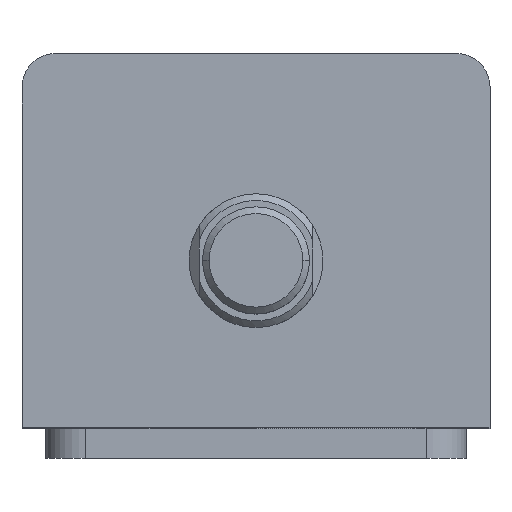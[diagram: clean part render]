
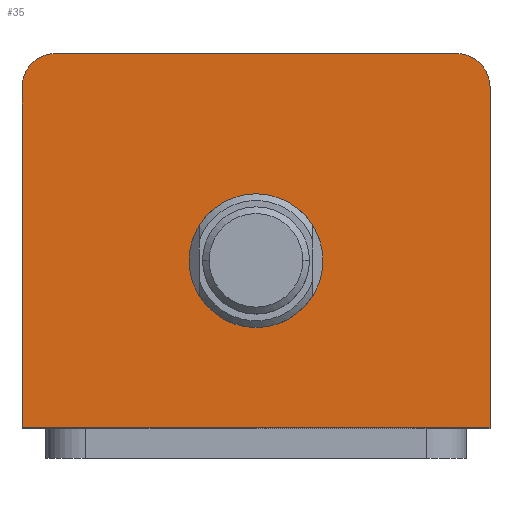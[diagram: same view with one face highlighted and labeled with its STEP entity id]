
A CAD part, top view. The second image highlights one B-rep face of the part: STEP entity #35.
In plain terms, the highlighted planar face has unit normal (0, 0, 1).
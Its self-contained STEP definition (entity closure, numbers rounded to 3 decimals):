
#35 = ADVANCED_FACE ( 'NONE', ( #2156, #2168 ), #1025, .T. ) ;
#135 = VERTEX_POINT ( 'NONE', #2301 ) ;
#136 = VERTEX_POINT ( 'NONE', #2296 ) ;
#201 = AXIS2_PLACEMENT_3D ( 'NONE', #2109, #2108, #2106 ) ;
#204 = AXIS2_PLACEMENT_3D ( 'NONE', #1403, #1401, #1398 ) ;
#337 = AXIS2_PLACEMENT_3D ( 'NONE', #789, #788, #787 ) ;
#349 = AXIS2_PLACEMENT_3D ( 'NONE', #605, #594, #592 ) ;
#394 = EDGE_CURVE ( 'NONE', #1612, #2658, #2304, .T. ) ;
#420 = EDGE_CURVE ( 'NONE', #887, #136, #2364, .T. ) ;
#437 = EDGE_CURVE ( 'NONE', #2647, #2650, #2399, .T. ) ;
#450 = EDGE_CURVE ( 'NONE', #136, #2647, #2418, .T. ) ;
#592 = DIRECTION ( 'NONE',  ( 1., 0., 0. ) ) ;
#594 = DIRECTION ( 'NONE',  ( 0., 0., 1. ) ) ;
#605 = CARTESIAN_POINT ( 'NONE',  ( 0., -3., 64. ) ) ;
#743 = CARTESIAN_POINT ( 'NONE',  ( 10., -3., 64. ) ) ;
#753 = CARTESIAN_POINT ( 'NONE',  ( 30., 28., 64. ) ) ;
#754 = CARTESIAN_POINT ( 'NONE',  ( -30., 28., 64. ) ) ;
#765 = DIRECTION ( 'NONE',  ( 1., 0., 0. ) ) ;
#768 = CARTESIAN_POINT ( 'NONE',  ( -35., -28., 64. ) ) ;
#787 = DIRECTION ( 'NONE',  ( 1., 0., 0. ) ) ;
#788 = DIRECTION ( 'NONE',  ( 0., 0., 1. ) ) ;
#789 = CARTESIAN_POINT ( 'NONE',  ( -30., 23., 64. ) ) ;
#811 = CARTESIAN_POINT ( 'NONE',  ( -35., 28., 64. ) ) ;
#828 = DIRECTION ( 'NONE',  ( 0., -1., 0. ) ) ;
#845 = CARTESIAN_POINT ( 'NONE',  ( -10., -3., 64. ) ) ;
#887 = VERTEX_POINT ( 'NONE', #1268 ) ;
#898 = VERTEX_POINT ( 'NONE', #1333 ) ;
#1025 = PLANE ( 'NONE',  #1647 ) ;
#1032 = DIRECTION ( 'NONE',  ( 1., 0., 0. ) ) ;
#1050 = CARTESIAN_POINT ( 'NONE',  ( 0., 0., 64. ) ) ;
#1065 = DIRECTION ( 'NONE',  ( 0., 0., 1. ) ) ;
#1268 = CARTESIAN_POINT ( 'NONE',  ( 35., -28., 64. ) ) ;
#1333 = CARTESIAN_POINT ( 'NONE',  ( -35., -28., 64. ) ) ;
#1398 = DIRECTION ( 'NONE',  ( 1., 0., 0. ) ) ;
#1401 = DIRECTION ( 'NONE',  ( 0., 0., 1. ) ) ;
#1403 = CARTESIAN_POINT ( 'NONE',  ( 30., 23., 64. ) ) ;
#1501 = DIRECTION ( 'NONE',  ( -1., 0., 0. ) ) ;
#1509 = CARTESIAN_POINT ( 'NONE',  ( -35., 28., 64. ) ) ;
#1612 = VERTEX_POINT ( 'NONE', #845 ) ;
#1647 = AXIS2_PLACEMENT_3D ( 'NONE', #1050, #1065, #1032 ) ;
#1686 = EDGE_CURVE ( 'NONE', #2658, #1612, #3049, .T. ) ;
#1718 = EDGE_CURVE ( 'NONE', #135, #898, #3064, .T. ) ;
#1726 = EDGE_CURVE ( 'NONE', #2650, #135, #3110, .T. ) ;
#1734 = EDGE_CURVE ( 'NONE', #898, #887, #3122, .T. ) ;
#1772 = ORIENTED_EDGE ( 'NONE', *, *, #1734, .T. ) ;
#1773 = ORIENTED_EDGE ( 'NONE', *, *, #1718, .T. ) ;
#1774 = ORIENTED_EDGE ( 'NONE', *, *, #1726, .T. ) ;
#1775 = ORIENTED_EDGE ( 'NONE', *, *, #437, .T. ) ;
#1776 = ORIENTED_EDGE ( 'NONE', *, *, #450, .T. ) ;
#1777 = ORIENTED_EDGE ( 'NONE', *, *, #420, .T. ) ;
#1778 = ORIENTED_EDGE ( 'NONE', *, *, #394, .F. ) ;
#1779 = ORIENTED_EDGE ( 'NONE', *, *, #1686, .F. ) ;
#2045 = DIRECTION ( 'NONE',  ( 0., 1., 0. ) ) ;
#2046 = CARTESIAN_POINT ( 'NONE',  ( 35., 28., 64. ) ) ;
#2106 = DIRECTION ( 'NONE',  ( 1., 0., 0. ) ) ;
#2108 = DIRECTION ( 'NONE',  ( 0., 0., 1. ) ) ;
#2109 = CARTESIAN_POINT ( 'NONE',  ( 0., -3., 64. ) ) ;
#2156 = FACE_BOUND ( 'NONE', #2798, .T. ) ;
#2168 = FACE_OUTER_BOUND ( 'NONE', #2784, .T. ) ;
#2296 = CARTESIAN_POINT ( 'NONE',  ( 35., 23., 64. ) ) ;
#2301 = CARTESIAN_POINT ( 'NONE',  ( -35., 23., 64. ) ) ;
#2304 = CIRCLE ( 'NONE', #201, 10. ) ;
#2364 = LINE ( 'NONE', #2046, #2368 ) ;
#2368 = VECTOR ( 'NONE', #2045, 1000. ) ;
#2399 = LINE ( 'NONE', #1509, #2403 ) ;
#2403 = VECTOR ( 'NONE', #1501, 1000. ) ;
#2418 = CIRCLE ( 'NONE', #204, 5. ) ;
#2647 = VERTEX_POINT ( 'NONE', #753 ) ;
#2650 = VERTEX_POINT ( 'NONE', #754 ) ;
#2658 = VERTEX_POINT ( 'NONE', #743 ) ;
#2784 = EDGE_LOOP ( 'NONE', ( #1777, #1776, #1775, #1774, #1773, #1772 ) ) ;
#2798 = EDGE_LOOP ( 'NONE', ( #1779, #1778 ) ) ;
#3049 = CIRCLE ( 'NONE', #349, 10. ) ;
#3064 = LINE ( 'NONE', #811, #3103 ) ;
#3103 = VECTOR ( 'NONE', #828, 1000. ) ;
#3110 = CIRCLE ( 'NONE', #337, 5. ) ;
#3122 = LINE ( 'NONE', #768, #3125 ) ;
#3125 = VECTOR ( 'NONE', #765, 1000. ) ;
